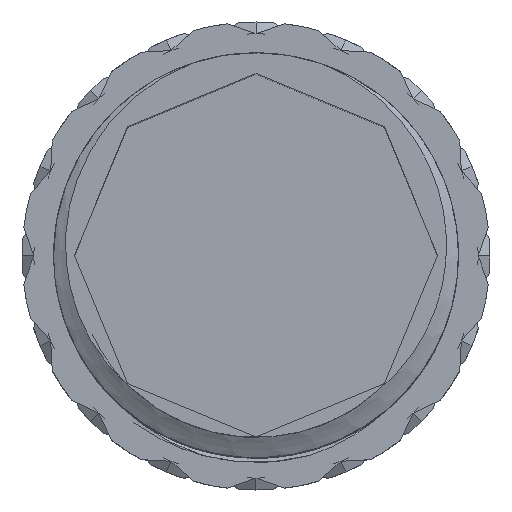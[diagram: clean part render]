
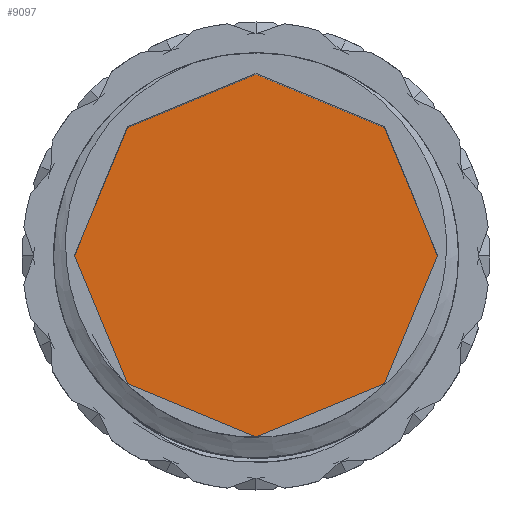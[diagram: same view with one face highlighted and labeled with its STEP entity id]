
A CAD part, top view. The second image highlights one B-rep face of the part: STEP entity #9097.
In plain terms, the highlighted planar face has unit normal (0, 0, 1).
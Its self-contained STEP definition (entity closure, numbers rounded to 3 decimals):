
#31=PLANE('',#9829);
#595=FACE_OUTER_BOUND('',#1310,.T.);
#1310=EDGE_LOOP('',(#6119,#6120,#6121,#6122,#6123,#6124,#6125,#6126));
#3429=LINE('',#15832,#3520);
#3432=LINE('',#15837,#3523);
#3434=LINE('',#15841,#3525);
#3436=LINE('',#15845,#3527);
#3438=LINE('',#15849,#3529);
#3440=LINE('',#15853,#3531);
#3442=LINE('',#15857,#3533);
#3444=LINE('',#15860,#3535);
#3520=VECTOR('',#10142,10.);
#3523=VECTOR('',#10147,10.);
#3525=VECTOR('',#10151,10.);
#3527=VECTOR('',#10155,10.);
#3529=VECTOR('',#10159,10.);
#3531=VECTOR('',#10163,10.);
#3533=VECTOR('',#10167,10.);
#3535=VECTOR('',#10171,10.);
#3653=VERTEX_POINT('',#15830);
#3654=VERTEX_POINT('',#15831);
#3655=VERTEX_POINT('',#15836);
#3656=VERTEX_POINT('',#15840);
#3657=VERTEX_POINT('',#15844);
#3658=VERTEX_POINT('',#15848);
#3659=VERTEX_POINT('',#15852);
#3660=VERTEX_POINT('',#15856);
#4481=EDGE_CURVE('',#3653,#3654,#3429,.T.);
#4484=EDGE_CURVE('',#3655,#3653,#3432,.T.);
#4486=EDGE_CURVE('',#3656,#3655,#3434,.T.);
#4488=EDGE_CURVE('',#3657,#3656,#3436,.T.);
#4490=EDGE_CURVE('',#3654,#3658,#3438,.T.);
#4492=EDGE_CURVE('',#3658,#3659,#3440,.T.);
#4494=EDGE_CURVE('',#3659,#3660,#3442,.T.);
#4496=EDGE_CURVE('',#3660,#3657,#3444,.T.);
#6119=ORIENTED_EDGE('',*,*,#4488,.T.);
#6120=ORIENTED_EDGE('',*,*,#4486,.T.);
#6121=ORIENTED_EDGE('',*,*,#4484,.T.);
#6122=ORIENTED_EDGE('',*,*,#4481,.T.);
#6123=ORIENTED_EDGE('',*,*,#4490,.T.);
#6124=ORIENTED_EDGE('',*,*,#4492,.T.);
#6125=ORIENTED_EDGE('',*,*,#4494,.T.);
#6126=ORIENTED_EDGE('',*,*,#4496,.T.);
#9097=ADVANCED_FACE('',(#595),#31,.T.);
#9829=AXIS2_PLACEMENT_3D('',#15861,#10172,#10173);
#10142=DIRECTION('',(-0.383,-0.924,0.));
#10147=DIRECTION('',(-0.924,-0.383,0.));
#10151=DIRECTION('',(-0.924,0.383,0.));
#10155=DIRECTION('',(-0.383,0.924,0.));
#10159=DIRECTION('',(0.383,-0.924,0.));
#10163=DIRECTION('',(0.924,-0.383,0.));
#10167=DIRECTION('',(0.924,0.383,0.));
#10171=DIRECTION('',(0.383,0.924,0.));
#10172=DIRECTION('center_axis',(0.,0.,1.));
#10173=DIRECTION('ref_axis',(1.,0.,0.));
#15830=CARTESIAN_POINT('',(-21.957,21.957,3.));
#15831=CARTESIAN_POINT('',(-31.052,0.,3.));
#15832=CARTESIAN_POINT('',(-28.921,5.145,3.));
#15836=CARTESIAN_POINT('',(0.,31.052,3.));
#15837=CARTESIAN_POINT('',(-16.812,24.088,3.));
#15840=CARTESIAN_POINT('',(21.957,21.957,3.));
#15841=CARTESIAN_POINT('',(5.145,28.921,3.));
#15844=CARTESIAN_POINT('',(31.052,0.,3.));
#15845=CARTESIAN_POINT('',(24.088,16.812,3.));
#15848=CARTESIAN_POINT('',(-21.957,-21.957,3.));
#15849=CARTESIAN_POINT('',(-24.088,-16.812,3.));
#15852=CARTESIAN_POINT('',(0.,-31.052,3.));
#15853=CARTESIAN_POINT('',(-5.145,-28.921,3.));
#15856=CARTESIAN_POINT('',(21.957,-21.957,3.));
#15857=CARTESIAN_POINT('',(16.812,-24.088,3.));
#15860=CARTESIAN_POINT('',(28.921,-5.145,3.));
#15861=CARTESIAN_POINT('Origin',(0.,0.,3.));
